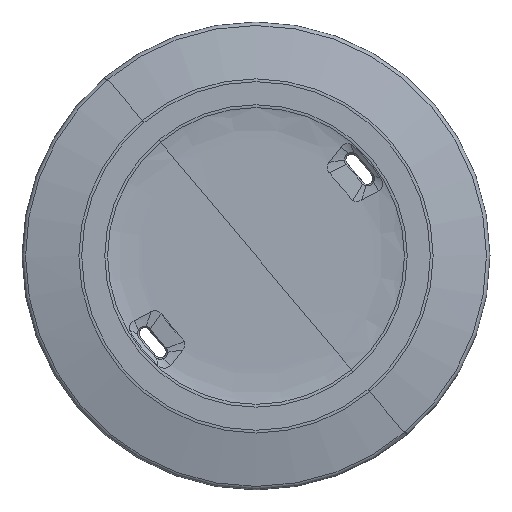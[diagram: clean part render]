
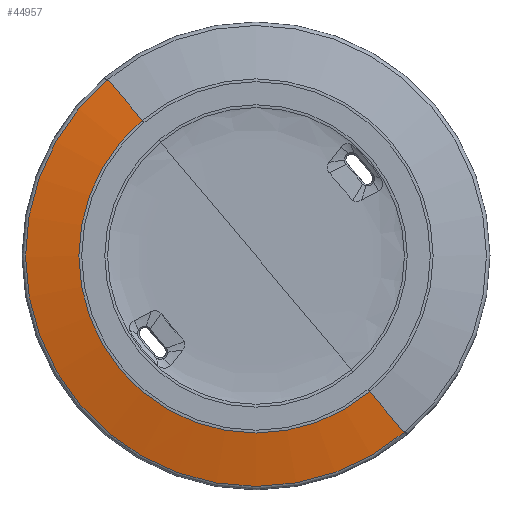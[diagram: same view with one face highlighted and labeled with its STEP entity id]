
A CAD part, top view. The second image highlights one B-rep face of the part: STEP entity #44957.
In plain terms, the highlighted face is a revolution surface.
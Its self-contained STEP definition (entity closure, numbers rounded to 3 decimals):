
#3888=CARTESIAN_POINT('',(1133.228,177.677,3.113));
#3889=CARTESIAN_POINT('',(1137.354,172.76,4.952));
#3890=CARTESIAN_POINT('',(1141.409,167.927,6.393));
#3891=CARTESIAN_POINT('',(1145.394,163.178,7.436));
#3912=CARTESIAN_POINT('',(1226.148,66.94,7.436));
#3913=CARTESIAN_POINT('',(1230.132,62.191,6.393));
#3914=CARTESIAN_POINT('',(1234.188,57.358,4.952));
#3915=CARTESIAN_POINT('',(1238.314,52.441,3.113));
#3928=CARTESIAN_POINT('',(1185.771,115.059,3.113));
#3929=DIRECTION('',(0.,0.,1.));
#3930=DIRECTION('',(-0.648,0.762,0.));
#3931=AXIS2_PLACEMENT_3D('',#3928,#3929,#3930);
#3936=CARTESIAN_POINT('',(1185.771,115.059,3.113));
#3937=DIRECTION('',(0.,0.,1.));
#3938=DIRECTION('',(-0.643,0.766,0.));
#3939=AXIS2_PLACEMENT_3D('',#3936,#3937,#3938);
#3944=CARTESIAN_POINT('',(1185.771,115.059,7.436));
#3945=DIRECTION('',(0.,0.,-1.));
#3946=DIRECTION('',(0.643,-0.766,0.));
#3947=AXIS2_PLACEMENT_3D('',#3944,#3945,#3946);
#40357=VERTEX_POINT('',#3888);
#40358=VERTEX_POINT('',#3891);
#40359=VERTEX_POINT('',#3912);
#40360=VERTEX_POINT('',#3915);
#40433=CARTESIAN_POINT('',(1132.823,177.335,3.113));
#40434=VERTEX_POINT('',#40433);
#44936=CARTESIAN_POINT('',(1145.517,163.032,7.468));
#44937=CARTESIAN_POINT('',(1145.476,163.081,7.457));
#44938=CARTESIAN_POINT('',(1141.413,167.923,6.398));
#44939=CARTESIAN_POINT('',(1137.275,172.854,4.924));
#44940=CARTESIAN_POINT('',(1133.108,177.821,3.06));
#44945=CARTESIAN_POINT('',(1185.771,115.059,5.134));
#44946=DIRECTION('',(0.,0.,-1.));
#44947=AXIS1_PLACEMENT('',#44945,#44946);
#44948=SURFACE_OF_REVOLUTION('',#44941,#44947);
#44949=ORIENTED_EDGE('',*,*,#44917,.T.);
#44950=ORIENTED_EDGE('',*,*,#44827,.F.);
#44951=ORIENTED_EDGE('',*,*,#44858,.F.);
#44952=ORIENTED_EDGE('',*,*,#44913,.T.);
#44954=ORIENTED_EDGE('',*,*,#44953,.F.);
#44955=EDGE_LOOP('',(#44949,#44950,#44951,#44952,#44954));
#44956=FACE_OUTER_BOUND('',#44955,.F.);
#44957=ADVANCED_FACE('',(#44956),#44948,.T.);
#3892=B_SPLINE_CURVE_WITH_KNOTS('',3,(#3888,#3889,#3890,#3891),.UNSPECIFIED.,
.F.,.F.,(4,4),(0.,1.),.UNSPECIFIED.);
#3916=B_SPLINE_CURVE_WITH_KNOTS('',3,(#3912,#3913,#3914,#3915),.UNSPECIFIED.,
.F.,.F.,(4,4),(0.,1.),.UNSPECIFIED.);
#3932=CIRCLE('',#3931,81.742);
#3940=CIRCLE('',#3939,81.742);
#3948=CIRCLE('',#3947,62.815);
#44827=EDGE_CURVE('',#40434,#40360,#3932,.T.);
#44858=EDGE_CURVE('',#40357,#40434,#3940,.T.);
#44913=EDGE_CURVE('',#40357,#40358,#3892,.T.);
#44917=EDGE_CURVE('',#40359,#40360,#3916,.T.);
#44941=B_SPLINE_CURVE_WITH_KNOTS('',3,(#44936,#44937,#44938,#44939,#44940),
.UNSPECIFIED.,.F.,.F.,(4,1,4),(0.,0.01,1.),.UNSPECIFIED.);
#44953=EDGE_CURVE('',#40359,#40358,#3948,.T.);
